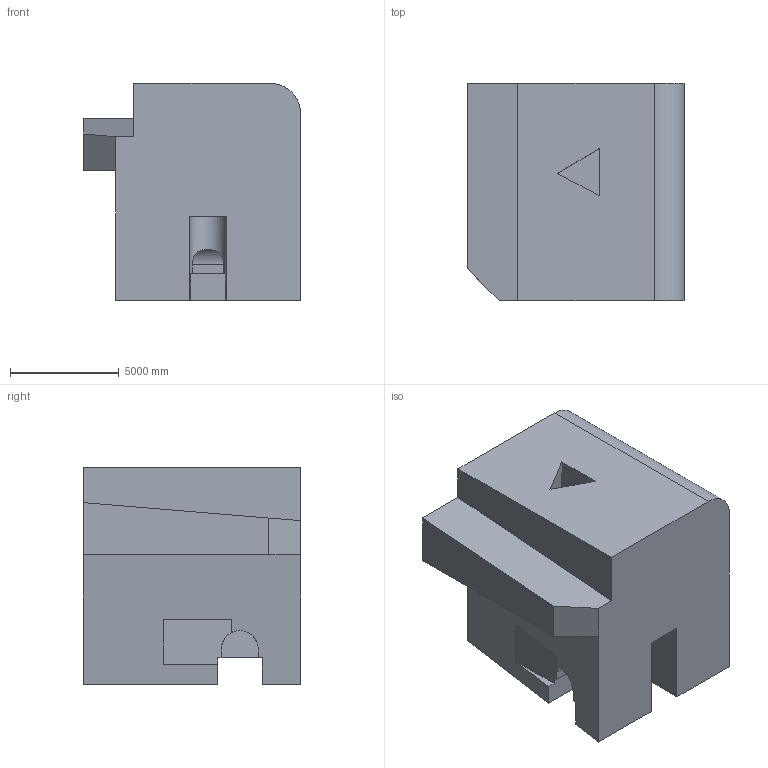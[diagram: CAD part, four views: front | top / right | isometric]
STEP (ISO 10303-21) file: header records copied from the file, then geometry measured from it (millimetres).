
FILE_DESCRIPTION (( 'STEP AP203' ), '1' );
FILE_NAME ('197.STEP', '2022-08-31T12:24:05', ( 'user' ), ( '' ), 'SwSTEP 2.0', 'SolidWorks 2021', '' );
FILE_SCHEMA (( 'CONFIG_CONTROL_DESIGN' ));
Length unit declared in the file: centimetre
Products named in the file (1): 197
Bounding box: 10000 x 10000 x 10000 mm (x, y, z)
Volume: 755185255485 mm3; surface area: 629859977.9 mm2
Topology: 1 solids, 1 shells, 44 faces, 120 edges, 80 vertices
Faces by surface type: plane 36, cylinder 8
Entity records: 1608 total; most frequent: CARTESIAN_POINT 400, ORIENTED_EDGE 240, DIRECTION 227, EDGE_CURVE 120, LINE 97, VECTOR 97, VERTEX_POINT 80, AXIS2_PLACEMENT_3D 65
